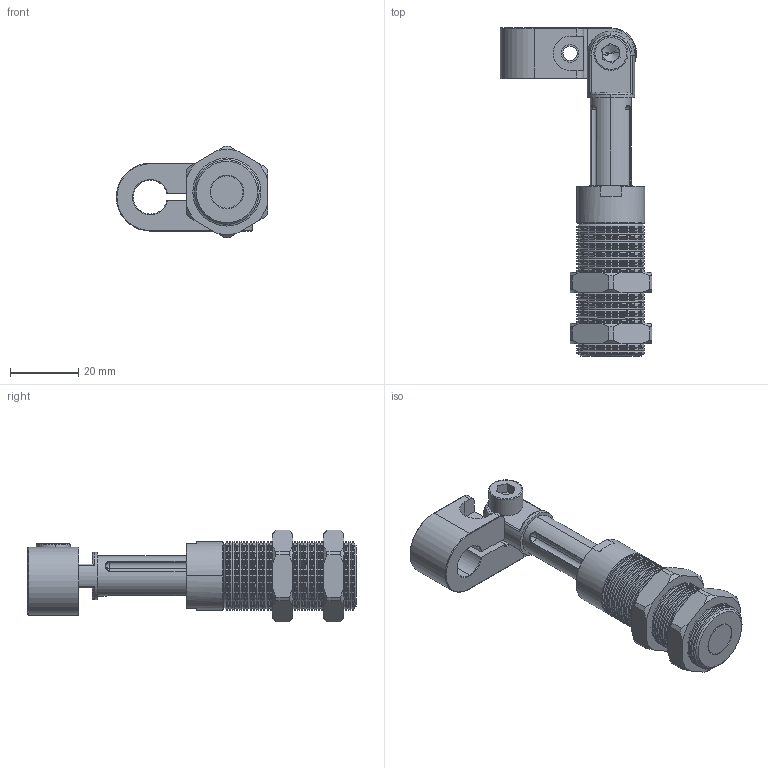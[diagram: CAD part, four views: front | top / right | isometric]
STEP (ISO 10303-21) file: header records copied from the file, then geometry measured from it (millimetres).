
FILE_DESCRIPTION (( 'STEP AP214' ), '1' );
FILE_NAME ('GSRT2026-10.STEP', '2019-11-12T08:16:21', ( '微软用户' ), ( '微软中国' ), 'SwSTEP 2.0', 'SolidWorks 2016', '' );
FILE_SCHEMA (( 'AUTOMOTIVE_DESIGN' ));
Length unit declared in the file: millimetre
Products named in the file (1): GSRT2026-10
Bounding box: 44.5 x 96.5 x 27 mm (x, y, z)
Volume: 27338.7 mm3; surface area: 18879 mm2
Topology: 7 solids, 7 shells, 548 faces, 1267 edges, 744 vertices
Faces by surface type: cone 243, cylinder 190, plane 79, sphere 14, bspline 12, torus 10
Entity records: 27068 total; most frequent: CARTESIAN_POINT 8680, DIRECTION 2710, ORIENTED_EDGE 2530, EDGE_CURVE 1265, AXIS2_PLACEMENT_3D 1087, VERTEX_POINT 744, EDGE_LOOP 583, CIRCLE 550
